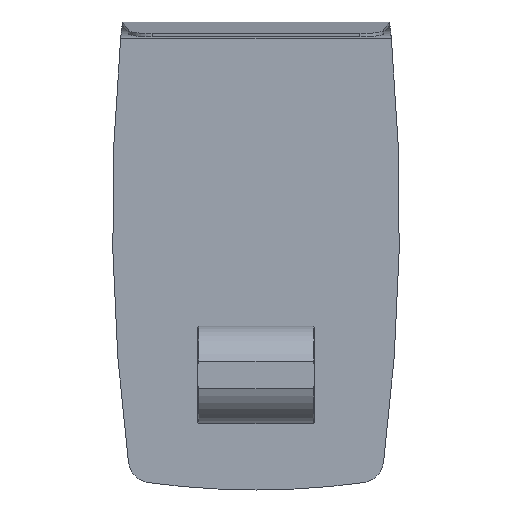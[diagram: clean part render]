
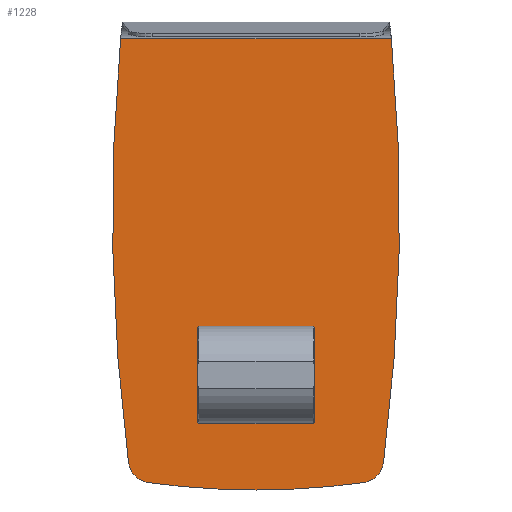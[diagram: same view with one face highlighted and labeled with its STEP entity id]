
A CAD part, front view. The second image highlights one B-rep face of the part: STEP entity #1228.
In plain terms, the highlighted planar face has unit normal (0, -1, 0).
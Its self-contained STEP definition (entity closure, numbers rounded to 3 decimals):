
#52 = DIRECTION ( 'NONE',  ( 0., -1., 0. ) ) ;
#65 = CIRCLE ( 'NONE', #852, 2358.75 ) ;
#69 = CARTESIAN_POINT ( 'NONE',  ( 382.059, 290., -622.566 ) ) ;
#70 = CARTESIAN_POINT ( 'NONE',  ( 322.205, 290., -682.89 ) ) ;
#83 = AXIS2_PLACEMENT_3D ( 'NONE', #1021, #52, #740 ) ;
#86 = DIRECTION ( 'NONE',  ( 0., -1., 0. ) ) ;
#102 = DIRECTION ( 'NONE',  ( 0., 0., -1. ) ) ;
#145 = VERTEX_POINT ( 'NONE', #70 ) ;
#150 = AXIS2_PLACEMENT_3D ( 'NONE', #631, #532, #102 ) ;
#158 = DIRECTION ( 'NONE',  ( 0., -1., 0. ) ) ;
#192 = DIRECTION ( 'NONE',  ( 0., 0., -1. ) ) ;
#197 = CARTESIAN_POINT ( 'NONE',  ( 0., 290., -705. ) ) ;
#213 = VERTEX_POINT ( 'NONE', #342 ) ;
#265 = ORIENTED_EDGE ( 'NONE', *, *, #1133, .T. ) ;
#291 = CARTESIAN_POINT ( 'NONE',  ( -322.205, 290., -682.89 ) ) ;
#300 = EDGE_CURVE ( 'NONE', #145, #1132, #1308, .T. ) ;
#308 = FACE_OUTER_BOUND ( 'NONE', #438, .T. ) ;
#326 = DIRECTION ( 'NONE',  ( -1., 0., 0. ) ) ;
#342 = CARTESIAN_POINT ( 'NONE',  ( 405.607, 290., 647.482 ) ) ;
#382 = EDGE_CURVE ( 'NONE', #213, #554, #1090, .T. ) ;
#397 = EDGE_CURVE ( 'NONE', #1293, #145, #1078, .T. ) ;
#414 = CARTESIAN_POINT ( 'NONE',  ( -5320.042, 290., 118.397 ) ) ;
#438 = EDGE_LOOP ( 'NONE', ( #826, #265, #863, #649, #1144, #777, #1135 ) ) ;
#498 = CARTESIAN_POINT ( 'NONE',  ( -312.643, 290., -613.546 ) ) ;
#503 = AXIS2_PLACEMENT_3D ( 'NONE', #498, #158, #936 ) ;
#504 = VECTOR ( 'NONE', #326, 1000. ) ;
#510 = DIRECTION ( 'NONE',  ( 0., 0., -1. ) ) ;
#532 = DIRECTION ( 'NONE',  ( 0., -1., 0. ) ) ;
#548 = AXIS2_PLACEMENT_3D ( 'NONE', #1160, #86, #192 ) ;
#554 = VERTEX_POINT ( 'NONE', #820 ) ;
#616 = CIRCLE ( 'NONE', #503, 70. ) ;
#625 = CARTESIAN_POINT ( 'NONE',  ( 0., 290., 1653.75 ) ) ;
#631 = CARTESIAN_POINT ( 'NONE',  ( 312.643, 290., -613.546 ) ) ;
#638 = DIRECTION ( 'NONE',  ( 0., -1., 0. ) ) ;
#649 = ORIENTED_EDGE ( 'NONE', *, *, #397, .T. ) ;
#658 = AXIS2_PLACEMENT_3D ( 'NONE', #414, #1169, #510 ) ;
#664 = CARTESIAN_POINT ( 'NONE',  ( -382.059, 290., -622.566 ) ) ;
#683 = CIRCLE ( 'NONE', #83, 5750.042 ) ;
#685 = AXIS2_PLACEMENT_3D ( 'NONE', #783, #1322, #1328 ) ;
#740 = DIRECTION ( 'NONE',  ( 0., 0., -1. ) ) ;
#749 = VERTEX_POINT ( 'NONE', #664 ) ;
#777 = ORIENTED_EDGE ( 'NONE', *, *, #913, .T. ) ;
#783 = CARTESIAN_POINT ( 'NONE',  ( 0., 290., 1653.75 ) ) ;
#820 = CARTESIAN_POINT ( 'NONE',  ( -405.607, 290., 647.482 ) ) ;
#826 = ORIENTED_EDGE ( 'NONE', *, *, #1150, .T. ) ;
#843 = PLANE ( 'NONE',  #548 ) ;
#852 = AXIS2_PLACEMENT_3D ( 'NONE', #625, #638, #1178 ) ;
#863 = ORIENTED_EDGE ( 'NONE', *, *, #1345, .T. ) ;
#913 = EDGE_CURVE ( 'NONE', #1132, #213, #1094, .T. ) ;
#936 = DIRECTION ( 'NONE',  ( 0., 0., -1. ) ) ;
#1021 = CARTESIAN_POINT ( 'NONE',  ( 5320.042, 290., 118.397 ) ) ;
#1078 = CIRCLE ( 'NONE', #685, 2358.75 ) ;
#1082 = VERTEX_POINT ( 'NONE', #291 ) ;
#1090 = LINE ( 'NONE', #1288, #504 ) ;
#1094 = CIRCLE ( 'NONE', #658, 5750.042 ) ;
#1132 = VERTEX_POINT ( 'NONE', #69 ) ;
#1133 = EDGE_CURVE ( 'NONE', #749, #1082, #616, .T. ) ;
#1135 = ORIENTED_EDGE ( 'NONE', *, *, #382, .T. ) ;
#1144 = ORIENTED_EDGE ( 'NONE', *, *, #300, .T. ) ;
#1150 = EDGE_CURVE ( 'NONE', #554, #749, #683, .T. ) ;
#1160 = CARTESIAN_POINT ( 'NONE',  ( -450., 290., 705. ) ) ;
#1169 = DIRECTION ( 'NONE',  ( 0., -1., 0. ) ) ;
#1178 = DIRECTION ( 'NONE',  ( 0., 0., -1. ) ) ;
#1228 = ADVANCED_FACE ( 'NONE', ( #308 ), #843, .T. ) ;
#1288 = CARTESIAN_POINT ( 'NONE',  ( -450., 290., 647.482 ) ) ;
#1293 = VERTEX_POINT ( 'NONE', #197 ) ;
#1308 = CIRCLE ( 'NONE', #150, 70. ) ;
#1322 = DIRECTION ( 'NONE',  ( 0., -1., 0. ) ) ;
#1328 = DIRECTION ( 'NONE',  ( 0., 0., -1. ) ) ;
#1345 = EDGE_CURVE ( 'NONE', #1082, #1293, #65, .T. ) ;
